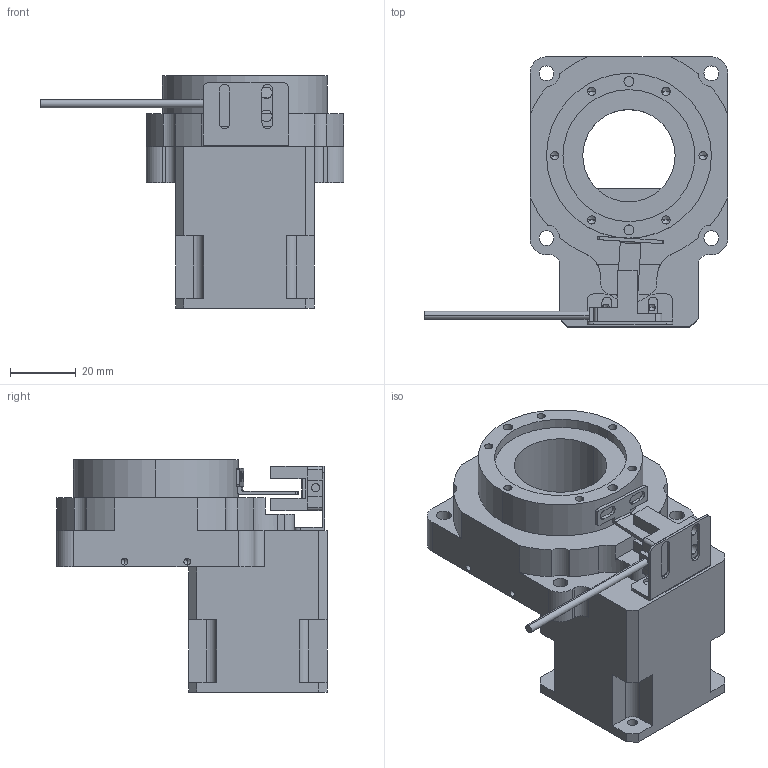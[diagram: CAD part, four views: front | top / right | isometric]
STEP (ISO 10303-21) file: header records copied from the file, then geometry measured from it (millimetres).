
FILE_DESCRIPTION (( 'STEP AP203' ), '1' );
FILE_NAME ('RTN60-10K-5-23-31-3(42²½½ø).STEP', '2024-05-21T07:05:29', ( '' ), ( '' ), 'SwSTEP 2.0', 'SolidWorks 2023', '' );
FILE_SCHEMA (( 'CONFIG_CONTROL_DESIGN' ));
Length unit declared in the file: millimetre
Products named in the file (1): RTN60-10K-5-23-31-3(42步进)
Bounding box: 92.1 x 81.9 x 70.5 mm (x, y, z)
Volume: 143519.8 mm3; surface area: 29997.9 mm2
Topology: 4 solids, 6 shells, 289 faces, 777 edges, 494 vertices
Faces by surface type: plane 137, cylinder 124, cone 28
Entity records: 9002 total; most frequent: DIRECTION 1581, CARTESIAN_POINT 1533, ORIENTED_EDGE 1498, EDGE_CURVE 749, AXIS2_PLACEMENT_3D 542, VECTOR 497, LINE 497, VERTEX_POINT 494
